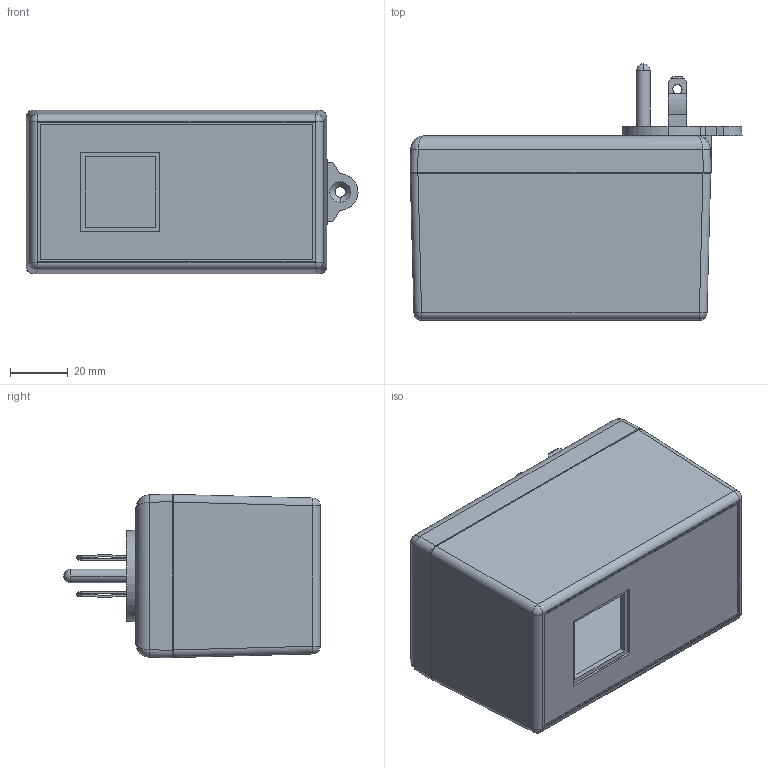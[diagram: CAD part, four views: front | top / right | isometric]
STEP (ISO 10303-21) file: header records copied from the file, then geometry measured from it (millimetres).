
FILE_DESCRIPTION (( 'STEP AP214' ), '1' );
FILE_NAME ('PM2425T13XWT.STEP', '2010-07-15T14:20:54', ( '' ), ( '' ), 'SwSTEP 2.0', 'SolidWorks 2010', '' );
FILE_SCHEMA (( 'AUTOMOTIVE_DESIGN' ));
Length unit declared in the file: inch
Products named in the file (10): TS-2420B AND PM2420_PM2420T1; B2405 ASS''Y_B24053XWT; MPB2405_MPB24053WT; GND-PIN; BLADES; WELD DISC-PS-BK; GND-TAB; SCREWS-HL1-BR; B2405-PCB; PM2425T13XWT
Assembly tree (13 placements, depth 3):
  PM2425T13XWT
    TS-2420B AND PM2420_PM2420T1
    SCREWS-HL1-BR  x4
    B2405-PCB
    B2405 ASS''Y_B24053XWT
      WELD DISC-PS-BK
      GND-TAB
      GND-PIN
      BLADES  x2
      MPB2405_MPB24053WT
Bounding box: 115.34 x 89.03 x 56.95 mm (x, y, z)
Volume: 88380 mm3; surface area: 82470.7 mm2
Topology: 12 solids, 12 shells, 961 faces, 2667 edges, 1737 vertices
Faces by surface type: cylinder 520, plane 305, cone 82, bspline 28, sphere 14, torus 12
Entity records: 20880 total; most frequent: CARTESIAN_POINT 6591, ORIENTED_EDGE 3044, DIRECTION 2790, EDGE_CURVE 1522, AXIS2_PLACEMENT_3D 997, VERTEX_POINT 987, VECTOR 796, LINE 796
